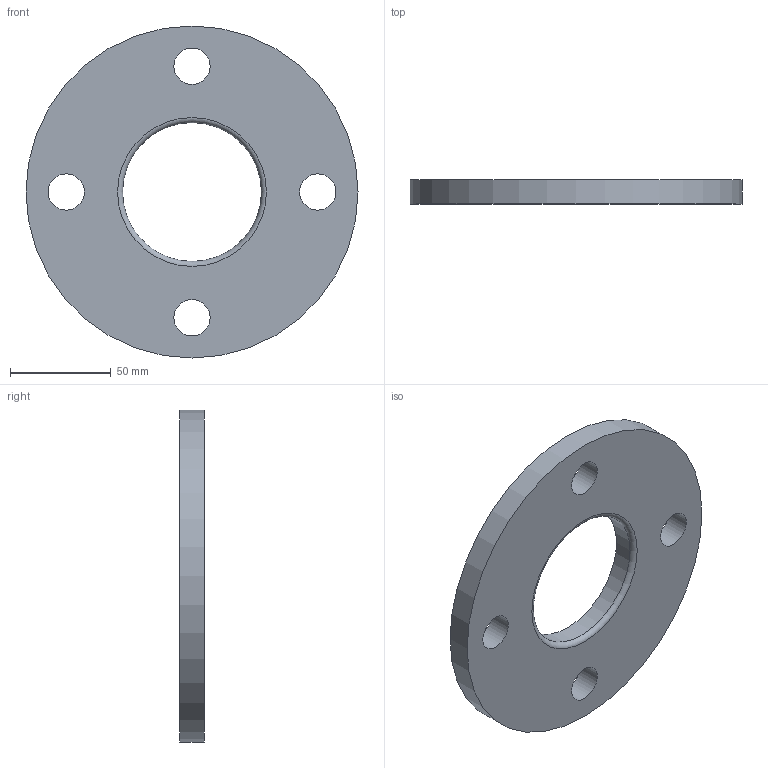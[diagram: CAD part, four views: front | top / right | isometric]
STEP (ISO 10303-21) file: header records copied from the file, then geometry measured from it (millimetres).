
FILE_DESCRIPTION(/* description */ (''),/* implementation_level */ '2;1');
FILE_NAME(/* name */ 'Z:\Geberit\Export\NewStep\363745.stp',/* time_stamp */ '2014-04-01T21:09:39+02:00',/* author */ ('nelson'),/* organization */ (''),/* preprocessor_version */ 'ST-DEVELOPER v15.2',/* originating_system */ 'Autodesk Inventor 2014',/* authorisation */ '');
FILE_SCHEMA (('AUTOMOTIVE_DESIGN { 1 0 10303 214 3 1 1 }'));
Length unit declared in the file: millimetre
Products named in the file (1): 363745
Bounding box: 165 x 12 x 165 mm (x, y, z)
Volume: 199208.2 mm3; surface area: 44556.7 mm2
Topology: 1 solids, 1 shells, 9 faces, 20 edges, 13 vertices
Faces by surface type: cylinder 6, plane 2, torus 1
Full cylindrical faces by diameter (mm): 18 x4, 69 x1, 165 x1
Entity records: 265 total; most frequent: DIRECTION 46, CARTESIAN_POINT 36, EDGE_LOOP 26, ORIENTED_EDGE 26, AXIS2_PLACEMENT_3D 23, FACE_BOUND 18, CIRCLE 13, VERTEX_POINT 13
